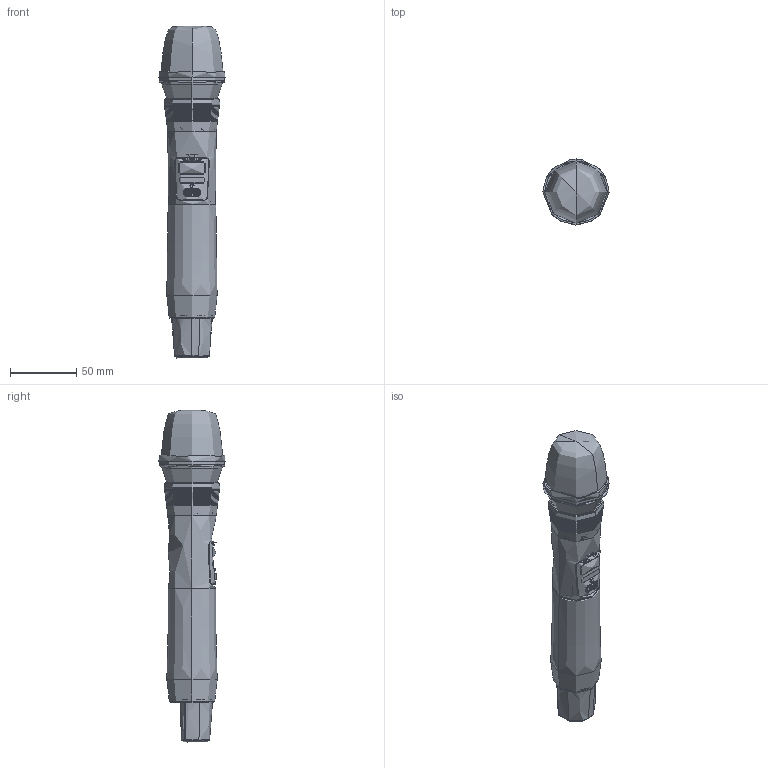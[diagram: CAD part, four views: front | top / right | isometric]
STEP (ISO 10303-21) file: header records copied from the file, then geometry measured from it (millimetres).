
FILE_DESCRIPTION(/* description */ (''),/* implementation_level */ '2;1');
FILE_NAME(/* name */ 'T-59HC',/* time_stamp */ '2024-10-11T17:55:54+08:00',/* author */ (''),/* organization */ (''),/* preprocessor_version */ 'ST-DEVELOPER v16.5',/* originating_system */ '',/* authorisation */ '');
FILE_SCHEMA (('CONFIG_CONTROL_DESIGN'));
Products named in the file (1): Document
Bounding box: 49.78 x 49.78 x 249.93 mm (x, y, z)
Volume: 137425.6 mm3; surface area: 127766.3 mm2
Topology: 38 solids, 43 shells, 2932 faces, 7894 edges, 5052 vertices
Faces by surface type: bspline 1087, plane 1066, cylinder 779
Entity records: 199565 total; most frequent: CARTESIAN_POINT 149951, ORIENTED_EDGE 15696, EDGE_CURVE 7888, B_SPLINE_CURVE_WITH_KNOTS 5734, VERTEX_POINT 5058, EDGE_LOOP 3111, ADVANCED_FACE 2932, FACE_OUTER_BOUND 2932
